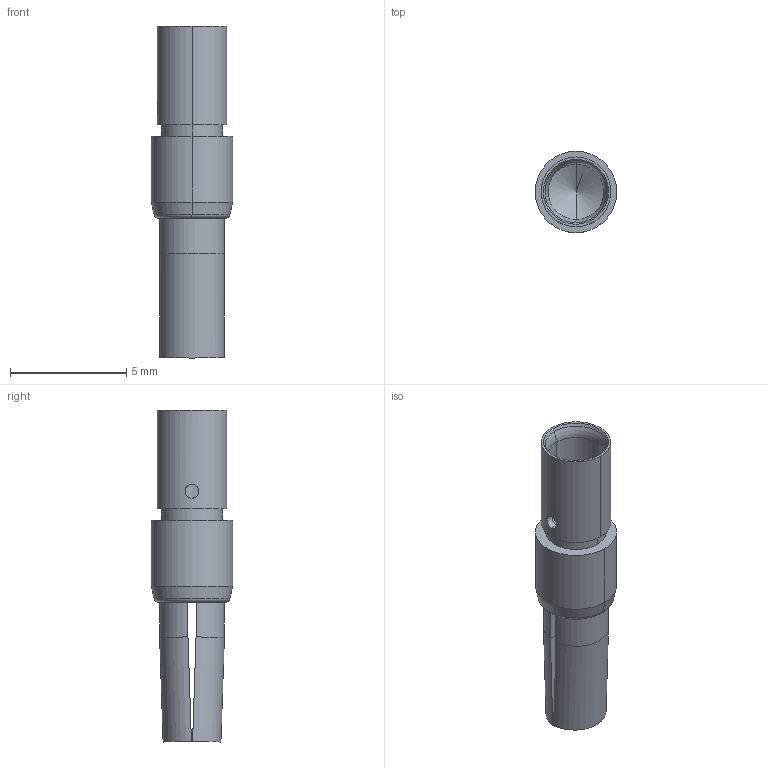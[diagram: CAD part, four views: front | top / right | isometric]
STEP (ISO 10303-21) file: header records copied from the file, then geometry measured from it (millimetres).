
FILE_DESCRIPTION((''),'2;1');
FILE_NAME('RC-5AS2000_1603509','2013-10-22T',('vbengel'),(''),'PRO/ENGINEER BY PARAMETRIC TECHNOLOGY CORPORATION, 2012480','PRO/ENGINEER BY PARAMETRIC TECHNOLOGY CORPORATION, 2012480','');
FILE_SCHEMA(('AUTOMOTIVE_DESIGN { 1 0 10303 214 1 1 1 1 }'));
Length unit declared in the file: millimetre
Products named in the file (1): RC-5AS2000_1603509
Bounding box: 3.5 x 3.5 x 14.3 mm (x, y, z)
Volume: 58.4 mm3; surface area: 226.1 mm2
Topology: 1 solids, 1 shells, 48 faces, 110 edges, 64 vertices
Faces by surface type: cylinder 18, plane 14, cone 10, torus 6
Entity records: 1598 total; most frequent: CARTESIAN_POINT 377, DIRECTION 230, ORIENTED_EDGE 212, EDGE_CURVE 106, AXIS2_PLACEMENT_3D 92, VERTEX_POINT 64, EDGE_LOOP 54, FACE_OUTER_BOUND 48
